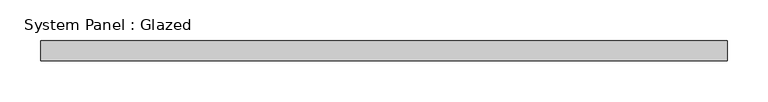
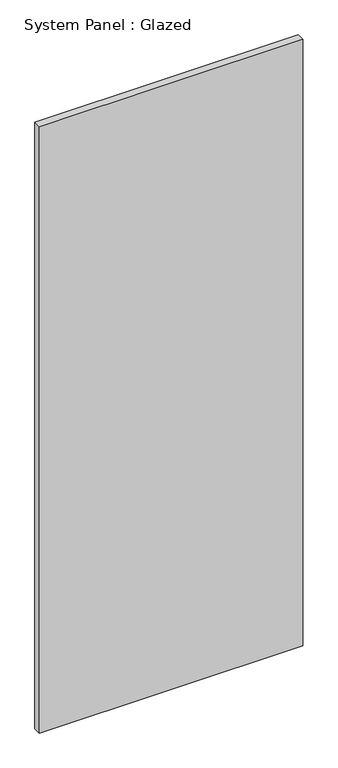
"""IFC4 building model written with IfcOpenShell, lengths in millimetres: plate geometry, System Panel : Glazed."""

from ifc_helpers import new_model, si_unit, origin, origin_with_axes, place, context, project, spatial, polyline, outline, extrude, source, transform, mapped, element, save


def system_panel_glazed_aa3f7126(model_context):
    return source(origin(), model_context, "Body", "SweptSolid", [
        extrude(outline(polyline([(422.9736843, -49.5), (-422.9736843, -49.5), (-422.9736843, -24.5), (422.9736843, -24.5), (422.9736843, -49.5)])), origin_with_axes(), (0.0, 0.0, 1.0), 2060.0),
    ])


if __name__ == "__main__":
    model = new_model("IFC4")
    model_context = context("Model", 3, world=origin())
    ifc_project = project(units=[si_unit("LENGTHUNIT", "METRE", prefix="MILLI")], contexts=[model_context])
    site = spatial("IfcSite", under=ifc_project)
    building = spatial("IfcBuilding", under=site)
    placement = place(None, origin())
    system_panel_glazed_shape = system_panel_glazed_aa3f7126(model_context)
    element("IfcPlate", 1, ObjectType="System Panel : Glazed", at=placement, inside=building, context=model_context, shape_type="MappedRepresentation", body=[
        mapped(system_panel_glazed_shape, transform((0.0, 0.0, 0.0), x_axis=(1.0, 0.0, 0.0), y_axis=(0.0, 1.0, 0.0), z_axis=(0.0, 0.0, 1.0))),
    ])
    save(model, "model.ifc")
